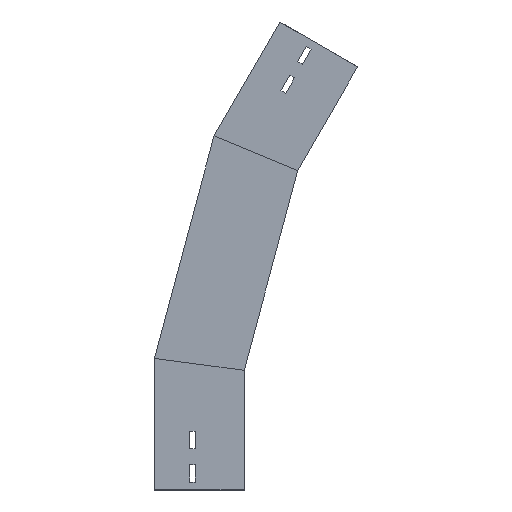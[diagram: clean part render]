
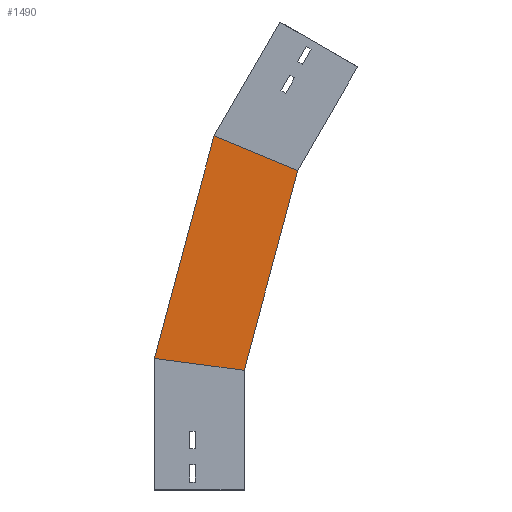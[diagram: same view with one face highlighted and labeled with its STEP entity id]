
A CAD part, left-side view. The second image highlights one B-rep face of the part: STEP entity #1490.
In plain terms, the highlighted planar face has unit normal (-1, 0, 0) as drawn and (1, 0, 0) by its records, which use the part's own axes.
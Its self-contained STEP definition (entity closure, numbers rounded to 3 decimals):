
#10 = CARTESIAN_POINT ( 'NONE',  ( 0., 0., 150. ) ) ;
#123 = EDGE_CURVE ( 'NONE', #988, #185, #1288, .T. ) ;
#148 = VERTEX_POINT ( 'NONE', #10 ) ;
#160 = CARTESIAN_POINT ( 'NONE',  ( 0., 112.5, 164.811 ) ) ;
#181 = VERTEX_POINT ( 'NONE', #1120 ) ;
#185 = VERTEX_POINT ( 'NONE', #1037 ) ;
#188 = VECTOR ( 'NONE', #1284, 1000. ) ;
#190 = DIRECTION ( 'NONE',  ( 0., -0.924, -0.383 ) ) ;
#239 = ORIENTED_EDGE ( 'NONE', *, *, #123, .T. ) ;
#242 = EDGE_CURVE ( 'NONE', #185, #181, #773, .T. ) ;
#341 = VECTOR ( 'NONE', #190, 1000. ) ;
#359 = DIRECTION ( 'NONE',  ( 0., -0.259, 0.966 ) ) ;
#377 = ORIENTED_EDGE ( 'NONE', *, *, #1427, .F. ) ;
#415 = DIRECTION ( 'NONE',  ( 1., 0., 0. ) ) ;
#470 = LINE ( 'NONE', #934, #188 ) ;
#509 = CARTESIAN_POINT ( 'NONE',  ( 0., -19.411, 147.444 ) ) ;
#551 = FACE_OUTER_BOUND ( 'NONE', #834, .T. ) ;
#628 = VECTOR ( 'NONE', #1421, 1000. ) ;
#664 = DIRECTION ( 'NONE',  ( 0., 0., -1. ) ) ;
#773 = LINE ( 'NONE', #1465, #341 ) ;
#834 = EDGE_LOOP ( 'NONE', ( #239, #1211, #1198, #377 ) ) ;
#852 = VECTOR ( 'NONE', #359, 1000. ) ;
#934 = CARTESIAN_POINT ( 'NONE',  ( 0., 4.243, 134.167 ) ) ;
#988 = VERTEX_POINT ( 'NONE', #160 ) ;
#1004 = PLANE ( 'NONE',  #1343 ) ;
#1032 = CARTESIAN_POINT ( 'NONE',  ( 0., 4.243, 134.167 ) ) ;
#1037 = CARTESIAN_POINT ( 'NONE',  ( 0., 37.799, 443.598 ) ) ;
#1120 = CARTESIAN_POINT ( 'NONE',  ( 0., -67.034, 400.175 ) ) ;
#1178 = CARTESIAN_POINT ( 'NONE',  ( 0., 112.909, 163.284 ) ) ;
#1194 = LINE ( 'NONE', #509, #628 ) ;
#1198 = ORIENTED_EDGE ( 'NONE', *, *, #1348, .F. ) ;
#1211 = ORIENTED_EDGE ( 'NONE', *, *, #242, .T. ) ;
#1284 = DIRECTION ( 'NONE',  ( 0., -0.259, 0.966 ) ) ;
#1288 = LINE ( 'NONE', #1178, #852 ) ;
#1343 = AXIS2_PLACEMENT_3D ( 'NONE', #1032, #415, #664 ) ;
#1348 = EDGE_CURVE ( 'NONE', #148, #181, #470, .T. ) ;
#1421 = DIRECTION ( 'NONE',  ( 0., -0.991, -0.131 ) ) ;
#1427 = EDGE_CURVE ( 'NONE', #988, #148, #1194, .T. ) ;
#1465 = CARTESIAN_POINT ( 'NONE',  ( 0., -100.244, 386.419 ) ) ;
#1490 = ADVANCED_FACE ( 'NONE', ( #551 ), #1004, .T. ) ;
